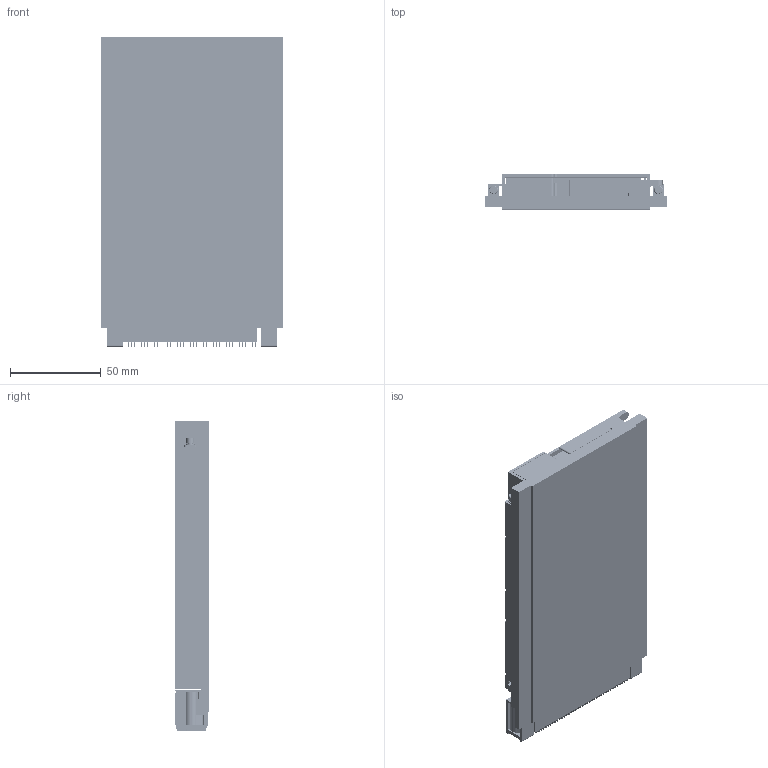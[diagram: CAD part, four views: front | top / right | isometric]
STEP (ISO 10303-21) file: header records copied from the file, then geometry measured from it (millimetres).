
FILE_DESCRIPTION (( 'STEP AP203' ), '1' );
FILE_NAME ('3U-VPX48.2-PS-260HC-82880.step', '2018-06-15T20:54:29', ( '' ), ( '' ), 'SwSTEP 2.0', 'SolidWorks 2014', '' );
FILE_SCHEMA (( 'CONFIG_CONTROL_DESIGN' ));
Products named in the file (1): 3U-VPX48.2-PS-260HC-82880
Bounding box: 100 x 19.27 x 170.75 mm (x, y, z)
Volume: 169252.5 mm3; surface area: 209649.6 mm2
Topology: 300 solids, 300 shells, 21687 faces, 60909 edges, 39472 vertices
Faces by surface type: plane 17821, cylinder 2683, bspline 1004, cone 178, torus 1
Entity records: 741189 total; most frequent: CARTESIAN_POINT 191070, ORIENTED_EDGE 118102, DIRECTION 104860, EDGE_CURVE 59051, VECTOR 51044, LINE 51044, VERTEX_POINT 39472, AXIS2_PLACEMENT_3D 26908
